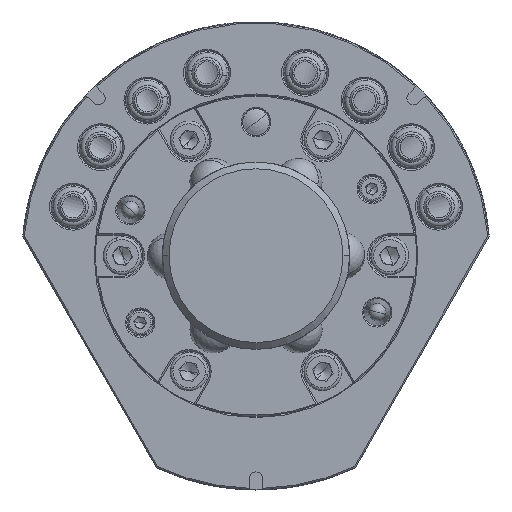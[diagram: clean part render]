
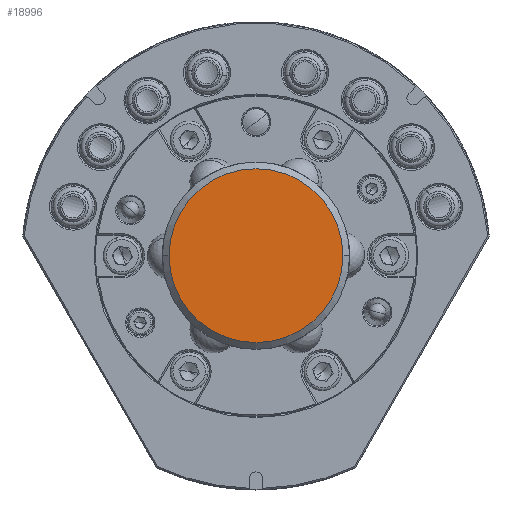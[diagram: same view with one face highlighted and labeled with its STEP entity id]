
A CAD part, top view. The second image highlights one B-rep face of the part: STEP entity #18996.
In plain terms, the highlighted planar face has unit normal (0, 0, 1).
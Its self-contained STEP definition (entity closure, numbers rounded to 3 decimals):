
#3650 = DIRECTION ( 'NONE',  ( 0., 0., 1. ) ) ;
#18996 = ADVANCED_FACE ( 'NONE', ( #29489 ), #21561, .F. ) ;
#20569 = CIRCLE ( 'NONE', #31374, 19.5 ) ;
#21316 = DIRECTION ( 'NONE',  ( -1., 0., 0. ) ) ;
#21393 = DIRECTION ( 'NONE',  ( 0., 0., -1. ) ) ;
#21561 = PLANE ( 'NONE',  #48384 ) ;
#22033 = AXIS2_PLACEMENT_3D ( 'NONE', #36978, #80450, #43260 ) ;
#22037 = CARTESIAN_POINT ( 'NONE',  ( 19.5, 0., 0. ) ) ;
#22131 = CARTESIAN_POINT ( 'NONE',  ( 0., 0., 0. ) ) ;
#29489 = FACE_OUTER_BOUND ( 'NONE', #34823, .T. ) ;
#31374 = AXIS2_PLACEMENT_3D ( 'NONE', #41514, #3650, #47811 ) ;
#34823 = EDGE_LOOP ( 'NONE', ( #55730, #49189 ) ) ;
#36978 = CARTESIAN_POINT ( 'NONE',  ( 0., 0., 0. ) ) ;
#41514 = CARTESIAN_POINT ( 'NONE',  ( 0., 0., 0. ) ) ;
#43260 = DIRECTION ( 'NONE',  ( -1., 0., 0. ) ) ;
#47811 = DIRECTION ( 'NONE',  ( -1., 0., 0. ) ) ;
#48384 = AXIS2_PLACEMENT_3D ( 'NONE', #22131, #21393, #21316 ) ;
#49189 = ORIENTED_EDGE ( 'NONE', *, *, #57099, .T. ) ;
#55730 = ORIENTED_EDGE ( 'NONE', *, *, #62501, .T. ) ;
#57099 = EDGE_CURVE ( 'NONE', #66471, #69506, #61537, .T. ) ;
#61537 = CIRCLE ( 'NONE', #22033, 19.5 ) ;
#62501 = EDGE_CURVE ( 'NONE', #69506, #66471, #20569, .T. ) ;
#66471 = VERTEX_POINT ( 'NONE', #22037 ) ;
#67229 = CARTESIAN_POINT ( 'NONE',  ( -19.5, 0., 0. ) ) ;
#69506 = VERTEX_POINT ( 'NONE', #67229 ) ;
#80450 = DIRECTION ( 'NONE',  ( 0., 0., 1. ) ) ;
